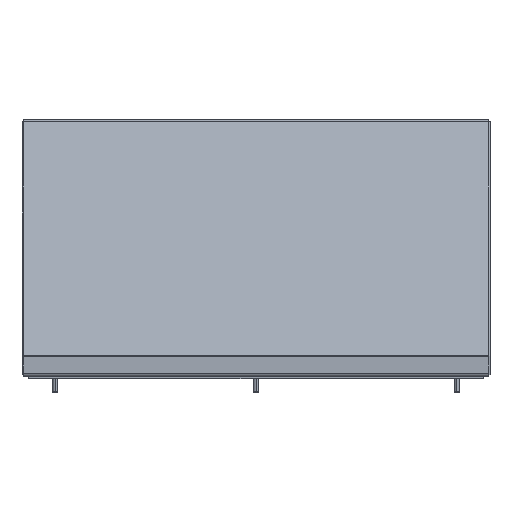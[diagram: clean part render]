
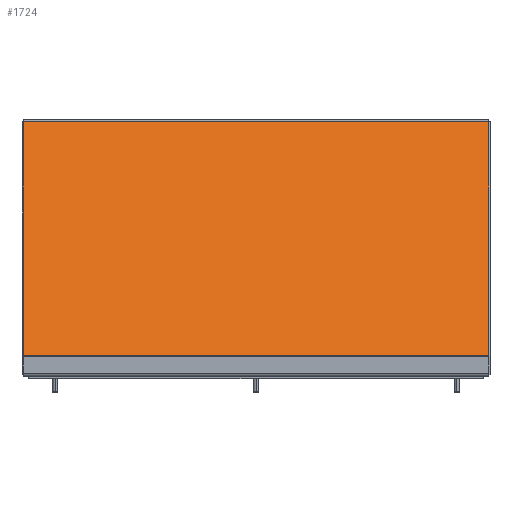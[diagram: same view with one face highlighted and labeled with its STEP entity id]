
A CAD part, front view. The second image highlights one B-rep face of the part: STEP entity #1724.
In plain terms, the highlighted planar face has unit normal (0, -0.94, 0.342) as drawn and (0, 0.94, -0.342) by its records, which use the part's own axes.
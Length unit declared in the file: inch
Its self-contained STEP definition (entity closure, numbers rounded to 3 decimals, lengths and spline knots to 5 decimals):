
#1470 = EDGE_CURVE ( 'NONE', #1473, #1489, #5689, .T. ) ;
#1472 = ORIENTED_EDGE ( 'NONE', *, *, #1470, .T. ) ;
#1473 = VERTEX_POINT ( 'NONE', #5604 ) ;
#1477 = EDGE_CURVE ( 'NONE', #1489, #1722, #5673, .T. ) ;
#1489 = VERTEX_POINT ( 'NONE', #5678 ) ;
#1493 = EDGE_LOOP ( 'NONE', ( #1472, #1725, #1495, #1499 ) ) ;
#1495 = ORIENTED_EDGE ( 'NONE', *, *, #1496, .F. ) ;
#1496 = EDGE_CURVE ( 'NONE', #1497, #1722, #5801, .T. ) ;
#1497 = VERTEX_POINT ( 'NONE', #5790 ) ;
#1499 = ORIENTED_EDGE ( 'NONE', *, *, #1500, .T. ) ;
#1500 = EDGE_CURVE ( 'NONE', #1497, #1473, #5784, .T. ) ;
#1722 = VERTEX_POINT ( 'NONE', #6209 ) ;
#1724 = ADVANCED_FACE ( 'NONE', ( #6207 ), #6219, .F. ) ;
#1725 = ORIENTED_EDGE ( 'NONE', *, *, #1477, .T. ) ;
#5604 = CARTESIAN_POINT ( 'NONE',  ( 11.574, -0.7981, -12.59349 ) ) ;
#5667 = DIRECTION ( 'NONE',  ( 0., 0.342, 0.94 ) ) ;
#5668 = VECTOR ( 'NONE', #5667, 39.37008 ) ;
#5672 = CARTESIAN_POINT ( 'NONE',  ( -11.574, 3.43984, -0.94986 ) ) ;
#5673 = LINE ( 'NONE', #5672, #5668 ) ;
#5677 = DIRECTION ( 'NONE',  ( -1., 0., 0. ) ) ;
#5678 = CARTESIAN_POINT ( 'NONE',  ( -11.574, -0.7981, -12.59349 ) ) ;
#5687 = VECTOR ( 'NONE', #5677, 39.37008 ) ;
#5688 = CARTESIAN_POINT ( 'NONE',  ( 11.574, -0.7981, -12.59349 ) ) ;
#5689 = LINE ( 'NONE', #5688, #5687 ) ;
#5781 = DIRECTION ( 'NONE',  ( 0., -0.342, -0.94 ) ) ;
#5782 = VECTOR ( 'NONE', #5781, 39.37008 ) ;
#5783 = CARTESIAN_POINT ( 'NONE',  ( 11.574, 3.43984, -0.94986 ) ) ;
#5784 = LINE ( 'NONE', #5783, #5782 ) ;
#5790 = CARTESIAN_POINT ( 'NONE',  ( 11.574, 3.43501, -0.96311 ) ) ;
#5798 = DIRECTION ( 'NONE',  ( -1., 0., 0. ) ) ;
#5799 = VECTOR ( 'NONE', #5798, 39.37008 ) ;
#5800 = CARTESIAN_POINT ( 'NONE',  ( -11.574, 3.43501, -0.96311 ) ) ;
#5801 = LINE ( 'NONE', #5800, #5799 ) ;
#6098 = DIRECTION ( 'NONE',  ( 0., -0.342, -0.94 ) ) ;
#6099 = DIRECTION ( 'NONE',  ( 0., -0.94, 0.342 ) ) ;
#6100 = CARTESIAN_POINT ( 'NONE',  ( 11.574, 3.43984, -0.94986 ) ) ;
#6207 = FACE_OUTER_BOUND ( 'NONE', #1493, .T. ) ;
#6209 = CARTESIAN_POINT ( 'NONE',  ( -11.574, 3.43501, -0.96311 ) ) ;
#6216 = AXIS2_PLACEMENT_3D ( 'NONE', #6100, #6099, #6098 ) ;
#6219 = PLANE ( 'NONE',  #6216 ) ;
